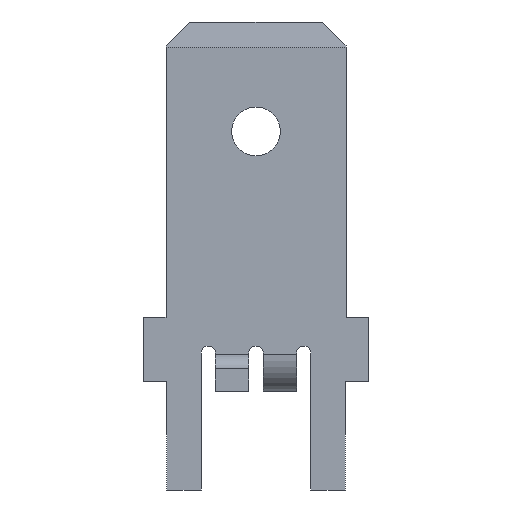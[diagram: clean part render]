
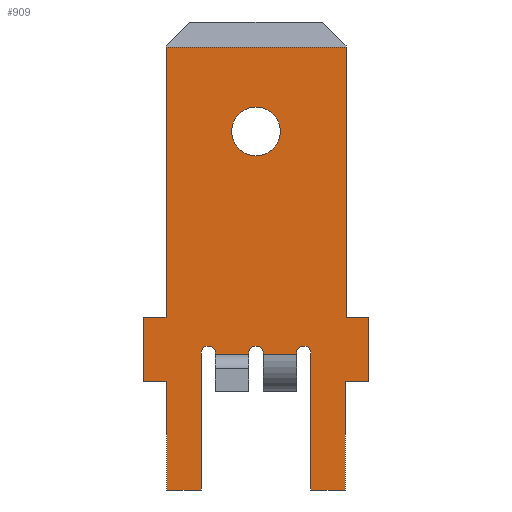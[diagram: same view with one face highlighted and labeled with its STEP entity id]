
A CAD part, front view. The second image highlights one B-rep face of the part: STEP entity #909.
In plain terms, the highlighted planar face has unit normal (0, -1, 0).
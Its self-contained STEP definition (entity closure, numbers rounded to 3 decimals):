
#235=CARTESIAN_POINT('',(0.,-0.4,-3.859));
#236=DIRECTION('',(0.,-1.,0.));
#237=DIRECTION('',(1.,0.,0.));
#238=AXIS2_PLACEMENT_3D('',#235,#236,#237);
#240=CARTESIAN_POINT('',(0.,-0.4,-3.859));
#241=DIRECTION('',(0.,-1.,0.));
#242=DIRECTION('',(-1.,0.,0.));
#243=AXIS2_PLACEMENT_3D('',#240,#241,#242);
#245=DIRECTION('',(-1.,0.,0.));
#246=VECTOR('',#245,6.35);
#247=CARTESIAN_POINT('',(3.175,-0.4,-0.889));
#248=LINE('',#247,#246);
#249=DIRECTION('',(0.,0.,-1.));
#250=VECTOR('',#249,9.525);
#251=CARTESIAN_POINT('',(3.175,-0.4,-0.889));
#252=LINE('',#251,#250);
#253=DIRECTION('',(1.,0.,0.));
#254=VECTOR('',#253,0.787);
#255=CARTESIAN_POINT('',(3.175,-0.4,-10.414));
#256=LINE('',#255,#254);
#257=DIRECTION('',(0.,0.,-1.));
#258=VECTOR('',#257,2.286);
#259=CARTESIAN_POINT('',(3.962,-0.4,-10.414));
#260=LINE('',#259,#258);
#261=DIRECTION('',(-1.,0.,0.));
#262=VECTOR('',#261,0.819);
#263=CARTESIAN_POINT('',(3.962,-0.4,-12.7));
#264=LINE('',#263,#262);
#265=DIRECTION('',(0.,0.,-1.));
#266=VECTOR('',#265,3.81);
#267=CARTESIAN_POINT('',(3.143,-0.4,-12.7));
#268=LINE('',#267,#266);
#269=DIRECTION('',(-1.,0.,0.));
#270=VECTOR('',#269,1.207);
#271=CARTESIAN_POINT('',(3.143,-0.4,-16.51));
#272=LINE('',#271,#270);
#273=DIRECTION('',(0.,0.,1.));
#274=VECTOR('',#273,4.826);
#275=CARTESIAN_POINT('',(1.937,-0.4,-16.51));
#276=LINE('',#275,#274);
#277=CARTESIAN_POINT('',(1.683,-0.4,-11.684));
#278=DIRECTION('',(0.,-1.,0.));
#279=DIRECTION('',(1.,0.,0.));
#280=AXIS2_PLACEMENT_3D('',#277,#278,#279);
#282=CARTESIAN_POINT('',(0.,-0.4,-11.684));
#283=DIRECTION('',(0.,-1.,0.));
#284=DIRECTION('',(1.,0.,0.));
#285=AXIS2_PLACEMENT_3D('',#282,#283,#284);
#287=CARTESIAN_POINT('',(-1.683,-0.4,-11.684));
#288=DIRECTION('',(0.,-1.,0.));
#289=DIRECTION('',(1.,0.,0.));
#290=AXIS2_PLACEMENT_3D('',#287,#288,#289);
#292=DIRECTION('',(0.,0.,-1.));
#293=VECTOR('',#292,4.826);
#294=CARTESIAN_POINT('',(-1.937,-0.4,-11.684));
#295=LINE('',#294,#293);
#296=DIRECTION('',(-1.,0.,0.));
#297=VECTOR('',#296,1.207);
#298=CARTESIAN_POINT('',(-1.937,-0.4,-16.51));
#299=LINE('',#298,#297);
#300=DIRECTION('',(0.,0.,1.));
#301=VECTOR('',#300,3.81);
#302=CARTESIAN_POINT('',(-3.143,-0.4,-16.51));
#303=LINE('',#302,#301);
#304=DIRECTION('',(-1.,0.,0.));
#305=VECTOR('',#304,0.819);
#306=CARTESIAN_POINT('',(-3.143,-0.4,-12.7));
#307=LINE('',#306,#305);
#308=DIRECTION('',(0.,0.,1.));
#309=VECTOR('',#308,2.286);
#310=CARTESIAN_POINT('',(-3.962,-0.4,-12.7));
#311=LINE('',#310,#309);
#312=DIRECTION('',(1.,0.,0.));
#313=VECTOR('',#312,0.787);
#314=CARTESIAN_POINT('',(-3.962,-0.4,-10.414));
#315=LINE('',#314,#313);
#316=DIRECTION('',(0.,0.,1.));
#317=VECTOR('',#316,9.525);
#318=CARTESIAN_POINT('',(-3.175,-0.4,-10.414));
#319=LINE('',#318,#317);
#438=DIRECTION('',(0.,0.,-1.));
#439=VECTOR('',#438,0.038);
#440=CARTESIAN_POINT('',(1.429,-0.4,-11.684));
#441=LINE('',#440,#439);
#446=DIRECTION('',(0.,0.,-1.));
#447=VECTOR('',#446,0.038);
#448=CARTESIAN_POINT('',(0.254,-0.4,-11.684));
#449=LINE('',#448,#447);
#510=DIRECTION('',(0.,0.,1.));
#511=VECTOR('',#510,0.038);
#512=CARTESIAN_POINT('',(-0.254,-0.4,-11.722));
#513=LINE('',#512,#511);
#522=DIRECTION('',(0.,0.,1.));
#523=VECTOR('',#522,0.038);
#524=CARTESIAN_POINT('',(-1.429,-0.4,-11.722));
#525=LINE('',#524,#523);
#576=DIRECTION('',(1.,0.,0.));
#577=VECTOR('',#576,1.175);
#578=CARTESIAN_POINT('',(-1.429,-0.4,-11.722));
#579=LINE('',#578,#577);
#592=DIRECTION('',(1.,0.,0.));
#593=VECTOR('',#592,1.175);
#594=CARTESIAN_POINT('',(0.254,-0.4,-11.722));
#595=LINE('',#594,#593);
#622=CARTESIAN_POINT('',(3.175,-0.4,-10.414));
#623=CARTESIAN_POINT('',(3.962,-0.4,-10.414));
#624=VERTEX_POINT('',#622);
#625=VERTEX_POINT('',#623);
#626=CARTESIAN_POINT('',(3.962,-0.4,-12.7));
#627=VERTEX_POINT('',#626);
#628=CARTESIAN_POINT('',(3.143,-0.4,-12.7));
#629=VERTEX_POINT('',#628);
#630=CARTESIAN_POINT('',(3.143,-0.4,-16.51));
#631=VERTEX_POINT('',#630);
#632=CARTESIAN_POINT('',(1.937,-0.4,-16.51));
#633=VERTEX_POINT('',#632);
#634=CARTESIAN_POINT('',(1.937,-0.4,-11.684));
#635=VERTEX_POINT('',#634);
#650=CARTESIAN_POINT('',(-1.937,-0.4,-11.684));
#651=CARTESIAN_POINT('',(-1.937,-0.4,-16.51));
#652=VERTEX_POINT('',#650);
#653=VERTEX_POINT('',#651);
#654=CARTESIAN_POINT('',(-3.143,-0.4,-16.51));
#655=VERTEX_POINT('',#654);
#656=CARTESIAN_POINT('',(-3.143,-0.4,-12.7));
#657=VERTEX_POINT('',#656);
#658=CARTESIAN_POINT('',(-3.962,-0.4,-12.7));
#659=VERTEX_POINT('',#658);
#660=CARTESIAN_POINT('',(-3.962,-0.4,-10.414));
#661=VERTEX_POINT('',#660);
#662=CARTESIAN_POINT('',(-3.175,-0.4,-10.414));
#663=VERTEX_POINT('',#662);
#672=CARTESIAN_POINT('',(3.175,-0.4,-0.889));
#673=CARTESIAN_POINT('',(-3.175,-0.4,-0.889));
#674=VERTEX_POINT('',#672);
#675=VERTEX_POINT('',#673);
#689=CARTESIAN_POINT('',(0.254,-0.4,-11.722));
#691=VERTEX_POINT('',#689);
#701=CARTESIAN_POINT('',(1.429,-0.4,-11.722));
#703=VERTEX_POINT('',#701);
#713=CARTESIAN_POINT('',(-0.254,-0.4,-11.722));
#715=VERTEX_POINT('',#713);
#725=CARTESIAN_POINT('',(-1.429,-0.4,-11.722));
#727=VERTEX_POINT('',#725);
#737=CARTESIAN_POINT('',(0.254,-0.4,-11.684));
#739=VERTEX_POINT('',#737);
#741=CARTESIAN_POINT('',(-0.254,-0.4,-11.684));
#743=VERTEX_POINT('',#741);
#746=CARTESIAN_POINT('',(-1.429,-0.4,-11.684));
#747=VERTEX_POINT('',#746);
#748=CARTESIAN_POINT('',(1.429,-0.4,-11.684));
#750=VERTEX_POINT('',#748);
#756=CARTESIAN_POINT('',(0.858,-0.4,-3.859));
#757=CARTESIAN_POINT('',(-0.858,-0.4,-3.859));
#758=VERTEX_POINT('',#756);
#759=VERTEX_POINT('',#757);
#850=CARTESIAN_POINT('',(0.,-0.4,0.));
#851=DIRECTION('',(0.,1.,0.));
#852=DIRECTION('',(1.,0.,0.));
#853=AXIS2_PLACEMENT_3D('',#850,#851,#852);
#854=PLANE('',#853);
#856=ORIENTED_EDGE('',*,*,#855,.F.);
#858=ORIENTED_EDGE('',*,*,#857,.T.);
#860=ORIENTED_EDGE('',*,*,#859,.T.);
#862=ORIENTED_EDGE('',*,*,#861,.T.);
#864=ORIENTED_EDGE('',*,*,#863,.T.);
#866=ORIENTED_EDGE('',*,*,#865,.T.);
#868=ORIENTED_EDGE('',*,*,#867,.T.);
#870=ORIENTED_EDGE('',*,*,#869,.T.);
#872=ORIENTED_EDGE('',*,*,#871,.T.);
#874=ORIENTED_EDGE('',*,*,#873,.T.);
#876=ORIENTED_EDGE('',*,*,#875,.F.);
#878=ORIENTED_EDGE('',*,*,#877,.F.);
#880=ORIENTED_EDGE('',*,*,#879,.T.);
#882=ORIENTED_EDGE('',*,*,#881,.F.);
#884=ORIENTED_EDGE('',*,*,#883,.F.);
#886=ORIENTED_EDGE('',*,*,#885,.T.);
#888=ORIENTED_EDGE('',*,*,#887,.T.);
#890=ORIENTED_EDGE('',*,*,#889,.T.);
#892=ORIENTED_EDGE('',*,*,#891,.T.);
#894=ORIENTED_EDGE('',*,*,#893,.T.);
#896=ORIENTED_EDGE('',*,*,#895,.T.);
#898=ORIENTED_EDGE('',*,*,#897,.T.);
#900=ORIENTED_EDGE('',*,*,#899,.T.);
#902=ORIENTED_EDGE('',*,*,#901,.T.);
#903=EDGE_LOOP('',(#856,#858,#860,#862,#864,#866,#868,#870,#872,#874,#876,#878,
#880,#882,#884,#886,#888,#890,#892,#894,#896,#898,#900,#902));
#904=FACE_OUTER_BOUND('',#903,.F.);
#905=ORIENTED_EDGE('',*,*,#830,.T.);
#906=ORIENTED_EDGE('',*,*,#844,.T.);
#907=EDGE_LOOP('',(#905,#906));
#908=FACE_BOUND('',#907,.F.);
#239=CIRCLE('',#238,0.858);
#244=CIRCLE('',#243,0.858);
#281=CIRCLE('',#280,0.254);
#286=CIRCLE('',#285,0.254);
#291=CIRCLE('',#290,0.254);
#830=EDGE_CURVE('',#758,#759,#239,.T.);
#844=EDGE_CURVE('',#759,#758,#244,.T.);
#855=EDGE_CURVE('',#674,#675,#248,.T.);
#857=EDGE_CURVE('',#674,#624,#252,.T.);
#859=EDGE_CURVE('',#624,#625,#256,.T.);
#861=EDGE_CURVE('',#625,#627,#260,.T.);
#863=EDGE_CURVE('',#627,#629,#264,.T.);
#865=EDGE_CURVE('',#629,#631,#268,.T.);
#867=EDGE_CURVE('',#631,#633,#272,.T.);
#869=EDGE_CURVE('',#633,#635,#276,.T.);
#871=EDGE_CURVE('',#635,#750,#281,.T.);
#873=EDGE_CURVE('',#750,#703,#441,.T.);
#875=EDGE_CURVE('',#691,#703,#595,.T.);
#877=EDGE_CURVE('',#739,#691,#449,.T.);
#879=EDGE_CURVE('',#739,#743,#286,.T.);
#881=EDGE_CURVE('',#715,#743,#513,.T.);
#883=EDGE_CURVE('',#727,#715,#579,.T.);
#885=EDGE_CURVE('',#727,#747,#525,.T.);
#887=EDGE_CURVE('',#747,#652,#291,.T.);
#889=EDGE_CURVE('',#652,#653,#295,.T.);
#891=EDGE_CURVE('',#653,#655,#299,.T.);
#893=EDGE_CURVE('',#655,#657,#303,.T.);
#895=EDGE_CURVE('',#657,#659,#307,.T.);
#897=EDGE_CURVE('',#659,#661,#311,.T.);
#899=EDGE_CURVE('',#661,#663,#315,.T.);
#901=EDGE_CURVE('',#663,#675,#319,.T.);
#909=ADVANCED_FACE('',(#904,#908),#854,.F.);
